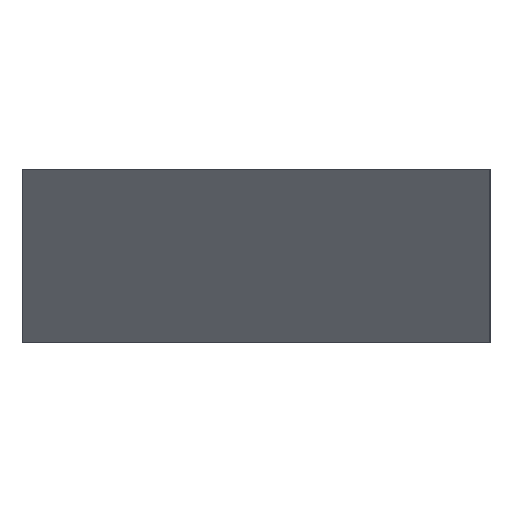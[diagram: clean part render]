
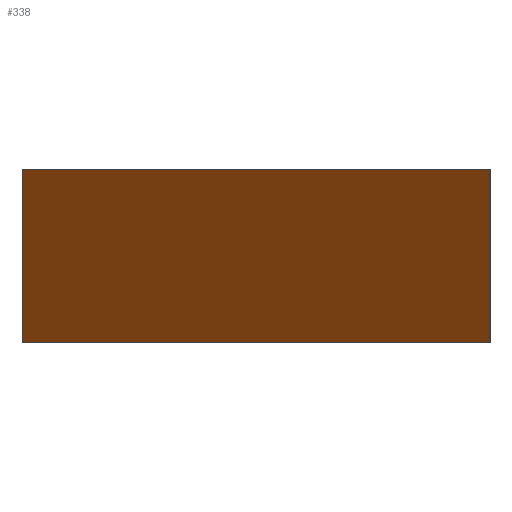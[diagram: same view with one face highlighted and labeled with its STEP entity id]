
A CAD part, front view. The second image highlights one B-rep face of the part: STEP entity #338.
In plain terms, the highlighted planar face has unit normal (-0.765, -0.644, 0).
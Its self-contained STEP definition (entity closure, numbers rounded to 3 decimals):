
#24 = VERTEX_POINT('',#25);
#25 = CARTESIAN_POINT('',(-234.788,-176.154,2.5));
#32 = PLANE('',#33);
#33 = AXIS2_PLACEMENT_3D('',#34,#35,#36);
#34 = CARTESIAN_POINT('',(-234.673,-176.057,2.5));
#35 = DIRECTION('',(0.,0.,1.));
#36 = DIRECTION('',(0.644,-0.765,0.));
#44 = PLANE('',#45);
#45 = AXIS2_PLACEMENT_3D('',#46,#47,#48);
#46 = CARTESIAN_POINT('',(-234.673,-176.057,23.5));
#47 = DIRECTION('',(0.644,-0.765,0.));
#48 = DIRECTION('',(0.,0.,-1.));
#56 = EDGE_CURVE('',#24,#57,#59,.T.);
#57 = VERTEX_POINT('',#58);
#58 = CARTESIAN_POINT('',(-178.197,-243.336,2.5));
#59 = SURFACE_CURVE('',#60,(#64,#71),.PCURVE_S1.);
#60 = LINE('',#61,#62);
#61 = CARTESIAN_POINT('',(-234.788,-176.154,2.5));
#62 = VECTOR('',#63,1.);
#63 = DIRECTION('',(0.644,-0.765,0.));
#64 = PCURVE('',#32,#65);
#65 = DEFINITIONAL_REPRESENTATION('',(#66),#70);
#66 = LINE('',#67,#68);
#67 = CARTESIAN_POINT('',(0.,-0.15));
#68 = VECTOR('',#69,1.);
#69 = DIRECTION('',(1.,0.));
#70 = ( GEOMETRIC_REPRESENTATION_CONTEXT(2) 
PARAMETRIC_REPRESENTATION_CONTEXT() REPRESENTATION_CONTEXT('2D SPACE',''
  ) );
#71 = PCURVE('',#72,#77);
#72 = PLANE('',#73);
#73 = AXIS2_PLACEMENT_3D('',#74,#75,#76);
#74 = CARTESIAN_POINT('',(-206.492,-209.745,13.));
#75 = DIRECTION('',(-0.765,-0.644,-0.));
#76 = DIRECTION('',(0.644,-0.765,0.));
#77 = DEFINITIONAL_REPRESENTATION('',(#78),#82);
#78 = LINE('',#79,#80);
#79 = CARTESIAN_POINT('',(-43.92,-10.5));
#80 = VECTOR('',#81,1.);
#81 = DIRECTION('',(1.,0.));
#82 = ( GEOMETRIC_REPRESENTATION_CONTEXT(2) 
PARAMETRIC_REPRESENTATION_CONTEXT() REPRESENTATION_CONTEXT('2D SPACE',''
  ) );
#100 = PLANE('',#101);
#101 = AXIS2_PLACEMENT_3D('',#102,#103,#104);
#102 = CARTESIAN_POINT('',(-178.082,-243.239,2.5));
#103 = DIRECTION('',(-0.644,0.765,0.));
#104 = DIRECTION('',(0.,0.,1.));
#142 = EDGE_CURVE('',#57,#143,#145,.T.);
#143 = VERTEX_POINT('',#144);
#144 = CARTESIAN_POINT('',(-178.197,-243.336,23.5));
#145 = SURFACE_CURVE('',#146,(#150,#157),.PCURVE_S1.);
#146 = LINE('',#147,#148);
#147 = CARTESIAN_POINT('',(-178.197,-243.336,2.5));
#148 = VECTOR('',#149,1.);
#149 = DIRECTION('',(0.,0.,1.));
#150 = PCURVE('',#100,#151);
#151 = DEFINITIONAL_REPRESENTATION('',(#152),#156);
#152 = LINE('',#153,#154);
#153 = CARTESIAN_POINT('',(0.,-0.15));
#154 = VECTOR('',#155,1.);
#155 = DIRECTION('',(1.,0.));
#156 = ( GEOMETRIC_REPRESENTATION_CONTEXT(2) 
PARAMETRIC_REPRESENTATION_CONTEXT() REPRESENTATION_CONTEXT('2D SPACE',''
  ) );
#157 = PCURVE('',#72,#158);
#158 = DEFINITIONAL_REPRESENTATION('',(#159),#163);
#159 = LINE('',#160,#161);
#160 = CARTESIAN_POINT('',(43.92,-10.5));
#161 = VECTOR('',#162,1.);
#162 = DIRECTION('',(0.,1.));
#163 = ( GEOMETRIC_REPRESENTATION_CONTEXT(2) 
PARAMETRIC_REPRESENTATION_CONTEXT() REPRESENTATION_CONTEXT('2D SPACE',''
  ) );
#181 = PLANE('',#182);
#182 = AXIS2_PLACEMENT_3D('',#183,#184,#185);
#183 = CARTESIAN_POINT('',(-178.082,-243.239,23.5));
#184 = DIRECTION('',(-0.,0.,-1.));
#185 = DIRECTION('',(-0.644,0.765,0.));
#218 = EDGE_CURVE('',#143,#219,#221,.T.);
#219 = VERTEX_POINT('',#220);
#220 = CARTESIAN_POINT('',(-234.788,-176.154,23.5));
#221 = SURFACE_CURVE('',#222,(#226,#233),.PCURVE_S1.);
#222 = LINE('',#223,#224);
#223 = CARTESIAN_POINT('',(-178.197,-243.336,23.5));
#224 = VECTOR('',#225,1.);
#225 = DIRECTION('',(-0.644,0.765,0.));
#226 = PCURVE('',#181,#227);
#227 = DEFINITIONAL_REPRESENTATION('',(#228),#232);
#228 = LINE('',#229,#230);
#229 = CARTESIAN_POINT('',(0.,-0.15));
#230 = VECTOR('',#231,1.);
#231 = DIRECTION('',(1.,0.));
#232 = ( GEOMETRIC_REPRESENTATION_CONTEXT(2) 
PARAMETRIC_REPRESENTATION_CONTEXT() REPRESENTATION_CONTEXT('2D SPACE',''
  ) );
#233 = PCURVE('',#72,#234);
#234 = DEFINITIONAL_REPRESENTATION('',(#235),#239);
#235 = LINE('',#236,#237);
#236 = CARTESIAN_POINT('',(43.92,10.5));
#237 = VECTOR('',#238,1.);
#238 = DIRECTION('',(-1.,0.));
#239 = ( GEOMETRIC_REPRESENTATION_CONTEXT(2) 
PARAMETRIC_REPRESENTATION_CONTEXT() REPRESENTATION_CONTEXT('2D SPACE',''
  ) );
#289 = EDGE_CURVE('',#219,#24,#290,.T.);
#290 = SURFACE_CURVE('',#291,(#295,#302),.PCURVE_S1.);
#291 = LINE('',#292,#293);
#292 = CARTESIAN_POINT('',(-234.788,-176.154,23.5));
#293 = VECTOR('',#294,1.);
#294 = DIRECTION('',(0.,0.,-1.));
#295 = PCURVE('',#44,#296);
#296 = DEFINITIONAL_REPRESENTATION('',(#297),#301);
#297 = LINE('',#298,#299);
#298 = CARTESIAN_POINT('',(-0.,-0.15));
#299 = VECTOR('',#300,1.);
#300 = DIRECTION('',(1.,0.));
#301 = ( GEOMETRIC_REPRESENTATION_CONTEXT(2) 
PARAMETRIC_REPRESENTATION_CONTEXT() REPRESENTATION_CONTEXT('2D SPACE',''
  ) );
#302 = PCURVE('',#72,#303);
#303 = DEFINITIONAL_REPRESENTATION('',(#304),#308);
#304 = LINE('',#305,#306);
#305 = CARTESIAN_POINT('',(-43.92,10.5));
#306 = VECTOR('',#307,1.);
#307 = DIRECTION('',(0.,-1.));
#308 = ( GEOMETRIC_REPRESENTATION_CONTEXT(2) 
PARAMETRIC_REPRESENTATION_CONTEXT() REPRESENTATION_CONTEXT('2D SPACE',''
  ) );
#338 = ADVANCED_FACE('',(#339),#72,.T.);
#339 = FACE_BOUND('',#340,.T.);
#340 = EDGE_LOOP('',(#341,#342,#343,#344));
#341 = ORIENTED_EDGE('',*,*,#56,.T.);
#342 = ORIENTED_EDGE('',*,*,#142,.T.);
#343 = ORIENTED_EDGE('',*,*,#218,.T.);
#344 = ORIENTED_EDGE('',*,*,#289,.T.);
